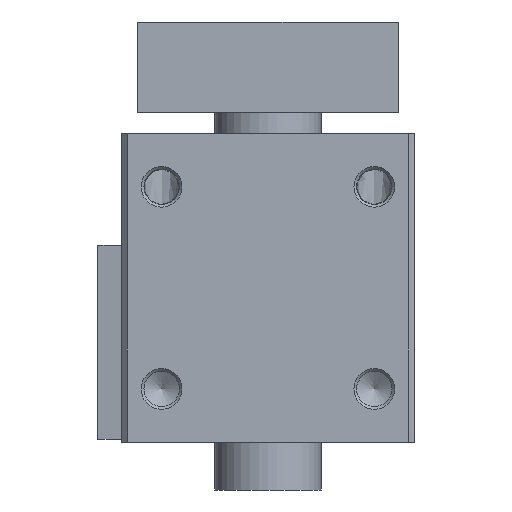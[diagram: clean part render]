
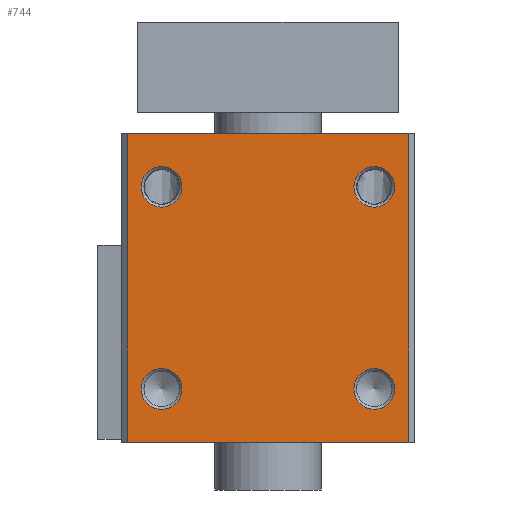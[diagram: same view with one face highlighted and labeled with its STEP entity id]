
A CAD part, left-side view. The second image highlights one B-rep face of the part: STEP entity #744.
In plain terms, the highlighted planar face has unit normal (-1, 0, 0).
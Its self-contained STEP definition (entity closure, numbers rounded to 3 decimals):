
#657=CARTESIAN_POINT('',(-61.402,21.555,51.323));
#658=VERTEX_POINT('',#657);
#659=CARTESIAN_POINT('',(-61.402,21.555,47.5));
#660=DIRECTION('',(-1.0,0.0,0.0));
#661=DIRECTION('',(0.0,0.0,-1.0));
#662=AXIS2_PLACEMENT_3D('',#659,#660,#661);
#663=CIRCLE('',#662,3.823);
#664=EDGE_CURVE('',#658,#658,#663,.T.);
#669=CARTESIAN_POINT('',(-61.402,1.555,-0.5));
#670=DIRECTION('',(-1.0,0.0,0.0));
#671=DIRECTION('',(0.0,0.0,1.0));
#672=AXIS2_PLACEMENT_3D('',#669,#670,#671);
#673=PLANE('',#672);
#674=CARTESIAN_POINT('',(-61.402,28.055,-0.5));
#675=VERTEX_POINT('',#674);
#676=CARTESIAN_POINT('',(-61.402,28.055,57.5));
#677=VERTEX_POINT('',#676);
#678=CARTESIAN_POINT('',(-61.402,28.055,-0.5));
#679=DIRECTION('',(0.0,0.0,1.0));
#680=VECTOR('',#679,58.);
#681=LINE('',#678,#680);
#682=EDGE_CURVE('',#675,#677,#681,.T.);
#683=ORIENTED_EDGE('',*,*,#682,.F.);
#684=CARTESIAN_POINT('',(-61.402,-24.945,-0.5));
#685=VERTEX_POINT('',#684);
#686=CARTESIAN_POINT('',(-61.402,28.055,-0.5));
#687=DIRECTION('',(0.0,-1.0,0.0));
#688=VECTOR('',#687,53.0);
#689=LINE('',#686,#688);
#690=EDGE_CURVE('',#675,#685,#689,.T.);
#691=ORIENTED_EDGE('',*,*,#690,.T.);
#692=CARTESIAN_POINT('',(-61.402,-24.945,57.5));
#693=VERTEX_POINT('',#692);
#694=CARTESIAN_POINT('',(-61.402,-24.945,57.5));
#695=DIRECTION('',(0.0,0.0,-1.0));
#696=VECTOR('',#695,58.);
#697=LINE('',#694,#696);
#698=EDGE_CURVE('',#693,#685,#697,.T.);
#699=ORIENTED_EDGE('',*,*,#698,.F.);
#700=CARTESIAN_POINT('',(-61.402,28.055,57.5));
#701=DIRECTION('',(0.0,-1.0,0.0));
#702=VECTOR('',#701,53.0);
#703=LINE('',#700,#702);
#704=EDGE_CURVE('',#677,#693,#703,.T.);
#705=ORIENTED_EDGE('',*,*,#704,.F.);
#706=EDGE_LOOP('',(#683,#691,#699,#705));
#707=FACE_OUTER_BOUND('',#706,.T.);
#708=CARTESIAN_POINT('',(-61.402,-18.445,51.323));
#709=VERTEX_POINT('',#708);
#710=CARTESIAN_POINT('',(-61.402,-18.445,47.5));
#711=DIRECTION('',(-1.0,0.0,0.0));
#712=DIRECTION('',(0.0,0.0,-1.0));
#713=AXIS2_PLACEMENT_3D('',#710,#711,#712);
#714=CIRCLE('',#713,3.823);
#715=EDGE_CURVE('',#709,#709,#714,.T.);
#716=ORIENTED_EDGE('',*,*,#715,.F.);
#717=EDGE_LOOP('',(#716));
#718=FACE_BOUND('',#717,.T.);
#719=CARTESIAN_POINT('',(-61.402,-18.445,13.323));
#720=VERTEX_POINT('',#719);
#721=CARTESIAN_POINT('',(-61.402,-18.445,9.5));
#722=DIRECTION('',(-1.0,0.0,0.0));
#723=DIRECTION('',(0.0,0.0,-1.0));
#724=AXIS2_PLACEMENT_3D('',#721,#722,#723);
#725=CIRCLE('',#724,3.824);
#726=EDGE_CURVE('',#720,#720,#725,.T.);
#727=ORIENTED_EDGE('',*,*,#726,.F.);
#728=EDGE_LOOP('',(#727));
#729=FACE_BOUND('',#728,.T.);
#730=CARTESIAN_POINT('',(-61.402,21.555,13.323));
#731=VERTEX_POINT('',#730);
#732=CARTESIAN_POINT('',(-61.402,21.555,9.5));
#733=DIRECTION('',(-1.0,0.0,0.0));
#734=DIRECTION('',(0.0,0.0,-1.0));
#735=AXIS2_PLACEMENT_3D('',#732,#733,#734);
#736=CIRCLE('',#735,3.824);
#737=EDGE_CURVE('',#731,#731,#736,.T.);
#738=ORIENTED_EDGE('',*,*,#737,.F.);
#739=EDGE_LOOP('',(#738));
#740=FACE_BOUND('',#739,.T.);
#741=ORIENTED_EDGE('',*,*,#664,.F.);
#742=EDGE_LOOP('',(#741));
#743=FACE_BOUND('',#742,.T.);
#744=ADVANCED_FACE('',(#707,#718,#729,#740,#743),#673,.T.);
